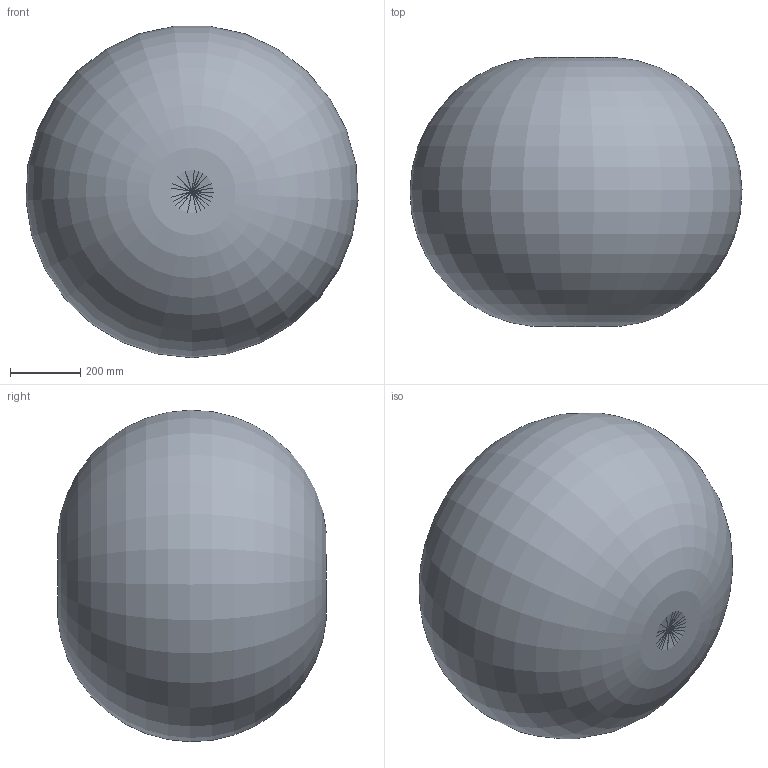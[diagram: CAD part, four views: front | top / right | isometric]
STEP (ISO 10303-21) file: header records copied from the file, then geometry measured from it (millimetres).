
FILE_DESCRIPTION(/* description */ ('Alibre Inc.'),/* implementation_level */ '2;1');
FILE_NAME(/* name */ 'export0',/* time_stamp */ '2016-05-14T09:56:27-04:00',/* author */ (''),/* organization */ (''),/* preprocessor_version */ 'ST-DEVELOPER v14',/* originating_system */ 'Alibre',/* authorisation */ '');
FILE_SCHEMA (('CONFIG_CONTROL_DESIGN'));
Length unit declared in the file: inch
Products named in the file (1): ID_1
Bounding box: 944.19 x 764.99 x 942.81 mm (x, y, z)
Volume: 260348941.8 mm3; surface area: 3950574.2 mm2
Topology: 1 solids, 1 shells, 252 faces, 656 edges, 392 vertices
Faces by surface type: bspline 88, cylinder 78, plane 49, torus 14, cone 13, sphere 10
Full cylindrical faces by diameter (mm): 14.717 x1, 110.49 x1, 118.66 x1, 120.46 x1, 169 x1, 185.81 x5, 208.34 x1
Entity records: 19235 total; most frequent: CARTESIAN_POINT 14033, ORIENTED_EDGE 1162, DIRECTION 920, EDGE_CURVE 581, AXIS2_PLACEMENT_3D 412, VERTEX_POINT 360, EDGE_LOOP 261, FACE_BOUND 261
